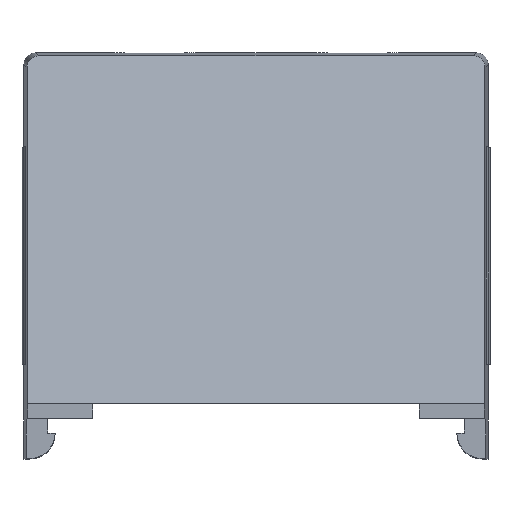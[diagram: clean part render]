
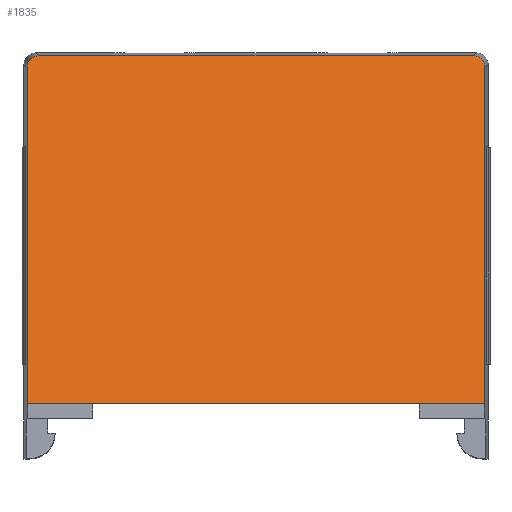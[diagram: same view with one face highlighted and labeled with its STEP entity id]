
A CAD part, top view. The second image highlights one B-rep face of the part: STEP entity #1835.
In plain terms, the highlighted planar face has unit normal (0, 0.251, 0.968).
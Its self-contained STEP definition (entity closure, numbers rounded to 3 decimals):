
#139 = VERTEX_POINT ( 'NONE', #2548 ) ;
#155 = EDGE_CURVE ( 'NONE', #1452, #1961, #907, .T. ) ;
#180 = ORIENTED_EDGE ( 'NONE', *, *, #3192, .T. ) ;
#242 = CARTESIAN_POINT ( 'NONE',  ( 32.064, 7.482, 79. ) ) ;
#264 = CARTESIAN_POINT ( 'NONE',  ( -30.916, 55.482, 66.538 ) ) ;
#274 = CARTESIAN_POINT ( 'NONE',  ( 31.5, 7.483, 79. ) ) ;
#361 = DIRECTION ( 'NONE',  ( 0.002, -0.968, 0.251 ) ) ;
#455 = CARTESIAN_POINT ( 'NONE',  ( 31.5, 7.482, 79. ) ) ;
#524 = CARTESIAN_POINT ( 'NONE',  ( -29.979, 55.482, 66.538 ) ) ;
#535 = DIRECTION ( 'NONE',  ( -0.002, -0.968, 0.251 ) ) ;
#548 = CARTESIAN_POINT ( 'NONE',  ( 29.979, 55.482, 66.538 ) ) ;
#628 = VERTEX_POINT ( 'NONE', #455 ) ;
#648 = LINE ( 'NONE', #1370, #1446 ) ;
#674 = VECTOR ( 'NONE', #361, 1000. ) ;
#675 =( BOUNDED_CURVE ( )  B_SPLINE_CURVE ( 3, ( #1482, #2749, #2495, #1993 ),
 .UNSPECIFIED., .F., .F. ) 
 B_SPLINE_CURVE_WITH_KNOTS ( ( 4, 4 ),
 ( 4.736, 6.307 ),
 .UNSPECIFIED. ) 
 CURVE ( )  GEOMETRIC_REPRESENTATION_ITEM ( )  RATIONAL_B_SPLINE_CURVE ( ( 1., 0.805, 0.805, 1. ) ) 
 REPRESENTATION_ITEM ( '' )  );
#767 = VERTEX_POINT ( 'NONE', #2928 ) ;
#774 = EDGE_LOOP ( 'NONE', ( #2371, #2491, #180, #919, #1842, #2661, #1654, #1176 ) ) ;
#819 = EDGE_CURVE ( 'NONE', #628, #1056, #648, .T. ) ;
#882 = FACE_OUTER_BOUND ( 'NONE', #774, .T. ) ;
#907 =( BOUNDED_CURVE ( )  B_SPLINE_CURVE ( 3, ( #524, #264, #3055, #2002 ),
 .UNSPECIFIED., .F., .T. ) 
 B_SPLINE_CURVE_WITH_KNOTS ( ( 4, 4 ),
 ( 6.26, 7.83 ),
 .UNSPECIFIED. ) 
 CURVE ( )  GEOMETRIC_REPRESENTATION_ITEM ( )  RATIONAL_B_SPLINE_CURVE ( ( 1., 0.805, 0.805, 1. ) ) 
 REPRESENTATION_ITEM ( '' )  );
#919 = ORIENTED_EDGE ( 'NONE', *, *, #2647, .F. ) ;
#1009 = DIRECTION ( 'NONE',  ( 0., 0.968, -0.251 ) ) ;
#1025 = CARTESIAN_POINT ( 'NONE',  ( 32.064, 7.482, 79. ) ) ;
#1056 = VERTEX_POINT ( 'NONE', #1516 ) ;
#1097 = EDGE_CURVE ( 'NONE', #2617, #1452, #3104, .T. ) ;
#1154 = AXIS2_PLACEMENT_3D ( 'NONE', #242, #1236, #1009 ) ;
#1158 = CARTESIAN_POINT ( 'NONE',  ( -31.5, 7.483, 79. ) ) ;
#1159 = VECTOR ( 'NONE', #1774, 1000. ) ;
#1176 = ORIENTED_EDGE ( 'NONE', *, *, #2832, .T. ) ;
#1194 = VECTOR ( 'NONE', #535, 1000. ) ;
#1236 = DIRECTION ( 'NONE',  ( 0., -0.251, -0.968 ) ) ;
#1263 = CARTESIAN_POINT ( 'NONE',  ( 32.064, 7.482, 79. ) ) ;
#1370 = CARTESIAN_POINT ( 'NONE',  ( 32.064, 7.482, 79. ) ) ;
#1446 = VECTOR ( 'NONE', #3143, 1000. ) ;
#1452 = VERTEX_POINT ( 'NONE', #2033 ) ;
#1474 = EDGE_CURVE ( 'NONE', #2339, #628, #3058, .T. ) ;
#1482 = CARTESIAN_POINT ( 'NONE',  ( 31.576, 53.879, 66.954 ) ) ;
#1516 = CARTESIAN_POINT ( 'NONE',  ( 22.5, 7.482, 79. ) ) ;
#1630 = CARTESIAN_POINT ( 'NONE',  ( 31.576, 53.879, 66.954 ) ) ;
#1654 = ORIENTED_EDGE ( 'NONE', *, *, #1474, .F. ) ;
#1774 = DIRECTION ( 'NONE',  ( -1., 0., 0. ) ) ;
#1797 = CARTESIAN_POINT ( 'NONE',  ( 32.064, 55.482, 66.538 ) ) ;
#1811 = CARTESIAN_POINT ( 'NONE',  ( -31.576, 53.879, 66.954 ) ) ;
#1835 = ADVANCED_FACE ( 'NONE', ( #882 ), #2275, .F. ) ;
#1842 = ORIENTED_EDGE ( 'NONE', *, *, #2013, .F. ) ;
#1961 = VERTEX_POINT ( 'NONE', #1811 ) ;
#1993 = CARTESIAN_POINT ( 'NONE',  ( 29.979, 55.482, 66.538 ) ) ;
#2002 = CARTESIAN_POINT ( 'NONE',  ( -31.576, 53.879, 66.954 ) ) ;
#2013 = EDGE_CURVE ( 'NONE', #1056, #767, #2902, .T. ) ;
#2014 = DIRECTION ( 'NONE',  ( -1., 0., 0. ) ) ;
#2033 = CARTESIAN_POINT ( 'NONE',  ( -29.979, 55.482, 66.538 ) ) ;
#2185 = LINE ( 'NONE', #1158, #674 ) ;
#2229 = VECTOR ( 'NONE', #2014, 1000. ) ;
#2275 = PLANE ( 'NONE',  #1154 ) ;
#2339 = VERTEX_POINT ( 'NONE', #1630 ) ;
#2371 = ORIENTED_EDGE ( 'NONE', *, *, #1097, .T. ) ;
#2466 = LINE ( 'NONE', #1263, #2229 ) ;
#2491 = ORIENTED_EDGE ( 'NONE', *, *, #155, .T. ) ;
#2495 = CARTESIAN_POINT ( 'NONE',  ( 30.916, 55.482, 66.538 ) ) ;
#2548 = CARTESIAN_POINT ( 'NONE',  ( -31.5, 7.482, 79. ) ) ;
#2617 = VERTEX_POINT ( 'NONE', #548 ) ;
#2647 = EDGE_CURVE ( 'NONE', #767, #139, #2466, .T. ) ;
#2661 = ORIENTED_EDGE ( 'NONE', *, *, #819, .F. ) ;
#2749 = CARTESIAN_POINT ( 'NONE',  ( 31.578, 54.818, 66.711 ) ) ;
#2808 = DIRECTION ( 'NONE',  ( -1., 0., 0. ) ) ;
#2832 = EDGE_CURVE ( 'NONE', #2339, #2617, #675, .T. ) ;
#2902 = LINE ( 'NONE', #1025, #3258 ) ;
#2928 = CARTESIAN_POINT ( 'NONE',  ( -22.5, 7.482, 79. ) ) ;
#3055 = CARTESIAN_POINT ( 'NONE',  ( -31.578, 54.818, 66.711 ) ) ;
#3058 = LINE ( 'NONE', #274, #1194 ) ;
#3104 = LINE ( 'NONE', #1797, #1159 ) ;
#3143 = DIRECTION ( 'NONE',  ( -1., 0., 0. ) ) ;
#3192 = EDGE_CURVE ( 'NONE', #1961, #139, #2185, .T. ) ;
#3258 = VECTOR ( 'NONE', #2808, 1000. ) ;
